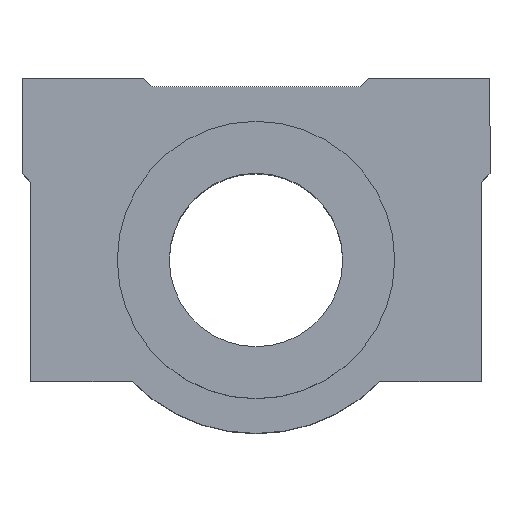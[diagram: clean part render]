
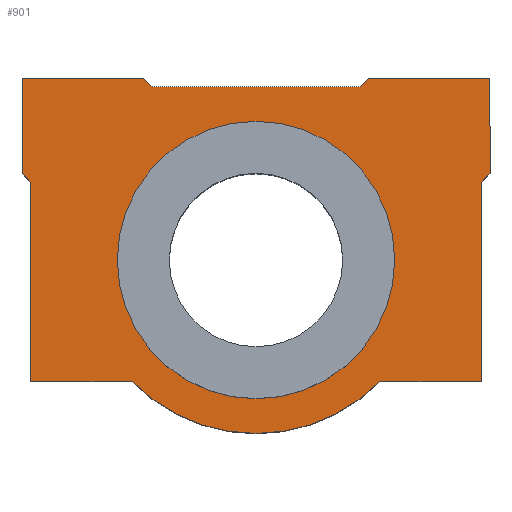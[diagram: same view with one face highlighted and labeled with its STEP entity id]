
A CAD part, top view. The second image highlights one B-rep face of the part: STEP entity #901.
In plain terms, the highlighted planar face has unit normal (0, 0, 1).
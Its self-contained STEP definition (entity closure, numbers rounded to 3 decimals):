
#133=CARTESIAN_POINT('',(-16.709,4.198,35.15));
#134=VERTEX_POINT('',#133);
#143=CARTESIAN_POINT('',(15.291,4.198,35.15));
#144=VERTEX_POINT('',#143);
#145=CARTESIAN_POINT('',(-0.709,4.198,35.15));
#146=DIRECTION('',(0.0,0.0,1.0));
#147=DIRECTION('',(-1.0,0.0,0.0));
#148=AXIS2_PLACEMENT_3D('',#145,#146,#147);
#149=CIRCLE('',#148,16.0);
#150=EDGE_CURVE('',#134,#144,#149,.T.);
#522=CARTESIAN_POINT('',(26.291,14.198,35.15));
#523=VERTEX_POINT('',#522);
#524=CARTESIAN_POINT('',(25.291,13.198,35.15));
#525=VERTEX_POINT('',#524);
#526=CARTESIAN_POINT('',(26.291,14.198,35.15));
#527=DIRECTION('',(-0.707,-0.707,0.0));
#528=VECTOR('',#527,1.414);
#529=LINE('',#526,#528);
#530=EDGE_CURVE('',#523,#525,#529,.T.);
#553=CARTESIAN_POINT('',(25.291,-9.802,35.15));
#554=VERTEX_POINT('',#553);
#555=CARTESIAN_POINT('',(25.291,13.198,35.15));
#556=DIRECTION('',(0.0,-1.0,0.0));
#557=VECTOR('',#556,23.);
#558=LINE('',#555,#557);
#559=EDGE_CURVE('',#525,#554,#558,.T.);
#577=CARTESIAN_POINT('',(13.574,-9.802,35.15));
#578=VERTEX_POINT('',#577);
#579=CARTESIAN_POINT('',(25.291,-9.802,35.15));
#580=DIRECTION('',(-1.0,0.0,0.0));
#581=VECTOR('',#580,11.717);
#582=LINE('',#579,#581);
#583=EDGE_CURVE('',#554,#578,#582,.T.);
#605=CARTESIAN_POINT('',(-14.992,-9.802,35.15));
#606=VERTEX_POINT('',#605);
#607=CARTESIAN_POINT('',(-0.709,4.198,35.15));
#608=DIRECTION('',(0.0,0.0,-1.0));
#609=DIRECTION('',(0.714,0.7,0.0));
#610=AXIS2_PLACEMENT_3D('',#607,#608,#609);
#611=CIRCLE('',#610,20.0);
#612=EDGE_CURVE('',#578,#606,#611,.T.);
#630=CARTESIAN_POINT('',(-26.709,-9.802,35.15));
#631=VERTEX_POINT('',#630);
#632=CARTESIAN_POINT('',(-14.992,-9.802,35.15));
#633=DIRECTION('',(-1.0,0.0,0.0));
#634=VECTOR('',#633,11.717);
#635=LINE('',#632,#634);
#636=EDGE_CURVE('',#606,#631,#635,.T.);
#658=CARTESIAN_POINT('',(-26.709,13.198,35.15));
#659=VERTEX_POINT('',#658);
#660=CARTESIAN_POINT('',(-26.709,-9.802,35.15));
#661=DIRECTION('',(0.0,1.0,0.0));
#662=VECTOR('',#661,23.);
#663=LINE('',#660,#662);
#664=EDGE_CURVE('',#631,#659,#663,.T.);
#682=CARTESIAN_POINT('',(-27.709,14.198,35.15));
#683=VERTEX_POINT('',#682);
#684=CARTESIAN_POINT('',(-26.709,13.198,35.15));
#685=DIRECTION('',(-0.707,0.707,0.0));
#686=VECTOR('',#685,1.414);
#687=LINE('',#684,#686);
#688=EDGE_CURVE('',#659,#683,#687,.T.);
#706=CARTESIAN_POINT('',(-27.709,25.198,35.15));
#707=VERTEX_POINT('',#706);
#708=CARTESIAN_POINT('',(-27.709,14.198,35.15));
#709=DIRECTION('',(0.0,1.0,0.0));
#710=VECTOR('',#709,11.);
#711=LINE('',#708,#710);
#712=EDGE_CURVE('',#683,#707,#711,.T.);
#730=CARTESIAN_POINT('',(-13.709,25.198,35.15));
#731=VERTEX_POINT('',#730);
#732=CARTESIAN_POINT('',(-27.709,25.198,35.15));
#733=DIRECTION('',(1.0,0.0,0.0));
#734=VECTOR('',#733,14.);
#735=LINE('',#732,#734);
#736=EDGE_CURVE('',#707,#731,#735,.T.);
#758=CARTESIAN_POINT('',(-12.709,24.198,35.15));
#759=VERTEX_POINT('',#758);
#760=CARTESIAN_POINT('',(-13.709,25.198,35.15));
#761=DIRECTION('',(0.707,-0.707,0.0));
#762=VECTOR('',#761,1.414);
#763=LINE('',#760,#762);
#764=EDGE_CURVE('',#731,#759,#763,.T.);
#782=CARTESIAN_POINT('',(11.291,24.198,35.15));
#783=VERTEX_POINT('',#782);
#784=CARTESIAN_POINT('',(-12.709,24.198,35.15));
#785=DIRECTION('',(1.0,0.0,0.0));
#786=VECTOR('',#785,24.);
#787=LINE('',#784,#786);
#788=EDGE_CURVE('',#759,#783,#787,.T.);
#806=CARTESIAN_POINT('',(12.291,25.198,35.15));
#807=VERTEX_POINT('',#806);
#808=CARTESIAN_POINT('',(11.291,24.198,35.15));
#809=DIRECTION('',(0.707,0.707,0.0));
#810=VECTOR('',#809,1.414);
#811=LINE('',#808,#810);
#812=EDGE_CURVE('',#783,#807,#811,.T.);
#830=CARTESIAN_POINT('',(26.291,25.198,35.15));
#831=VERTEX_POINT('',#830);
#832=CARTESIAN_POINT('',(12.291,25.198,35.15));
#833=DIRECTION('',(1.0,0.0,0.0));
#834=VECTOR('',#833,14.);
#835=LINE('',#832,#834);
#836=EDGE_CURVE('',#807,#831,#835,.T.);
#858=CARTESIAN_POINT('',(26.291,25.198,35.15));
#859=DIRECTION('',(0.0,-1.0,0.0));
#860=VECTOR('',#859,11.);
#861=LINE('',#858,#860);
#862=EDGE_CURVE('',#831,#523,#861,.T.);
#870=CARTESIAN_POINT('',(-0.709,6.918,35.15));
#871=DIRECTION('',(0.0,0.0,1.0));
#872=DIRECTION('',(1.0,0.0,0.0));
#873=AXIS2_PLACEMENT_3D('',#870,#871,#872);
#874=PLANE('',#873);
#875=ORIENTED_EDGE('',*,*,#530,.F.);
#876=ORIENTED_EDGE('',*,*,#862,.F.);
#877=ORIENTED_EDGE('',*,*,#836,.F.);
#878=ORIENTED_EDGE('',*,*,#812,.F.);
#879=ORIENTED_EDGE('',*,*,#788,.F.);
#880=ORIENTED_EDGE('',*,*,#764,.F.);
#881=ORIENTED_EDGE('',*,*,#736,.F.);
#882=ORIENTED_EDGE('',*,*,#712,.F.);
#883=ORIENTED_EDGE('',*,*,#688,.F.);
#884=ORIENTED_EDGE('',*,*,#664,.F.);
#885=ORIENTED_EDGE('',*,*,#636,.F.);
#886=ORIENTED_EDGE('',*,*,#612,.F.);
#887=ORIENTED_EDGE('',*,*,#583,.F.);
#888=ORIENTED_EDGE('',*,*,#559,.F.);
#889=EDGE_LOOP('',(#875,#876,#877,#878,#879,#880,#881,#882,#883,#884,#885,#886,#887,#888));
#890=FACE_OUTER_BOUND('',#889,.T.);
#891=CARTESIAN_POINT('',(-0.709,4.198,35.15));
#892=DIRECTION('',(0.0,0.0,1.0));
#893=DIRECTION('',(-1.0,0.0,0.0));
#894=AXIS2_PLACEMENT_3D('',#891,#892,#893);
#895=CIRCLE('',#894,16.0);
#896=EDGE_CURVE('',#144,#134,#895,.T.);
#897=ORIENTED_EDGE('',*,*,#896,.F.);
#898=ORIENTED_EDGE('',*,*,#150,.F.);
#899=EDGE_LOOP('',(#897,#898));
#900=FACE_BOUND('',#899,.T.);
#901=ADVANCED_FACE('',(#890,#900),#874,.T.);
